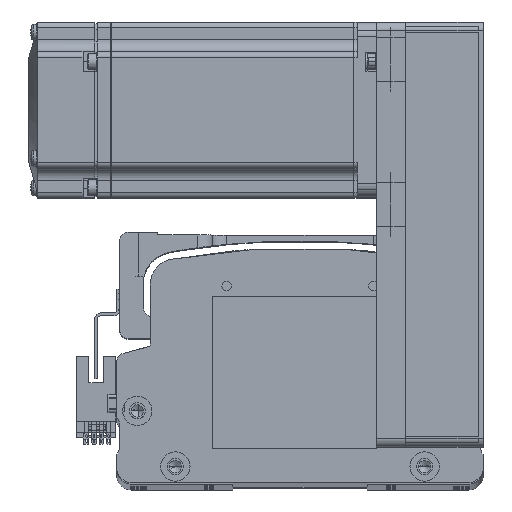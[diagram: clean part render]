
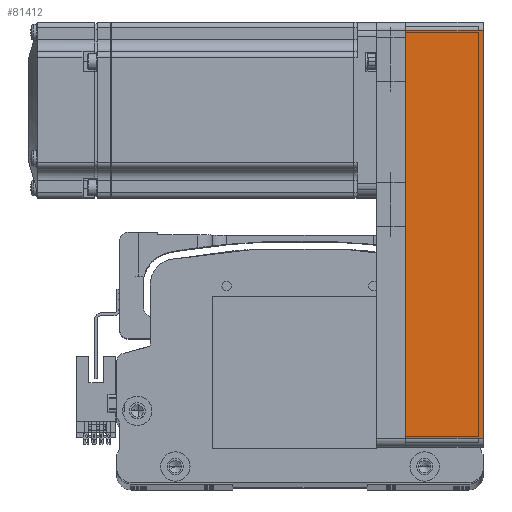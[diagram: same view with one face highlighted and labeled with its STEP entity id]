
A CAD part, top view. The second image highlights one B-rep face of the part: STEP entity #81412.
In plain terms, the highlighted planar face has unit normal (0, 0, 1) as drawn and (0, 1, 0) by its records, which use the part's own axes.
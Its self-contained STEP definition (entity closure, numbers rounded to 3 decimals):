
#199 = VERTEX_POINT ( 'NONE', #31712 ) ;
#4864 = CARTESIAN_POINT ( 'NONE',  ( 69.5, 30., 26.5 ) ) ;
#6150 = CARTESIAN_POINT ( 'NONE',  ( 72.5, 30., 26.5 ) ) ;
#6156 = VECTOR ( 'NONE', #12427, 1000. ) ;
#6783 = ORIENTED_EDGE ( 'NONE', *, *, #7560, .T. ) ;
#7560 = EDGE_CURVE ( 'NONE', #199, #18741, #8234, .T. ) ;
#8234 = LINE ( 'NONE', #51675, #6156 ) ;
#8261 = VERTEX_POINT ( 'NONE', #65864 ) ;
#11476 = DIRECTION ( 'NONE',  ( 0., 0., 1. ) ) ;
#12232 = CARTESIAN_POINT ( 'NONE',  ( -69.5, 30., 26.5 ) ) ;
#12427 = DIRECTION ( 'NONE',  ( -1., 0., 0. ) ) ;
#12798 = DIRECTION ( 'NONE',  ( 1., 0., 0. ) ) ;
#14699 = DIRECTION ( 'NONE',  ( -1., 0., 0. ) ) ;
#14882 = ORIENTED_EDGE ( 'NONE', *, *, #74785, .F. ) ;
#15406 = ORIENTED_EDGE ( 'NONE', *, *, #56958, .T. ) ;
#18741 = VERTEX_POINT ( 'NONE', #43311 ) ;
#22747 = LINE ( 'NONE', #25812, #77156 ) ;
#23011 = EDGE_LOOP ( 'NONE', ( #6783, #15406, #14882, #35166 ) ) ;
#25812 = CARTESIAN_POINT ( 'NONE',  ( -69.5, 30., 26.5 ) ) ;
#27476 = VECTOR ( 'NONE', #50751, 1000. ) ;
#31712 = CARTESIAN_POINT ( 'NONE',  ( 69.5, 30., 0. ) ) ;
#32937 = LINE ( 'NONE', #47371, #81126 ) ;
#35166 = ORIENTED_EDGE ( 'NONE', *, *, #83820, .T. ) ;
#35373 = AXIS2_PLACEMENT_3D ( 'NONE', #6150, #52036, #12798 ) ;
#43311 = CARTESIAN_POINT ( 'NONE',  ( -69.5, 30., 0. ) ) ;
#45367 = FACE_OUTER_BOUND ( 'NONE', #23011, .T. ) ;
#47371 = CARTESIAN_POINT ( 'NONE',  ( 72.5, 30., 26.5 ) ) ;
#50751 = DIRECTION ( 'NONE',  ( 0., 0., -1. ) ) ;
#51675 = CARTESIAN_POINT ( 'NONE',  ( 72.5, 30., 0. ) ) ;
#52036 = DIRECTION ( 'NONE',  ( 0., -1., 0. ) ) ;
#56958 = EDGE_CURVE ( 'NONE', #18741, #78993, #22747, .T. ) ;
#64925 = PLANE ( 'NONE',  #35373 ) ;
#65864 = CARTESIAN_POINT ( 'NONE',  ( 69.5, 30., 26.5 ) ) ;
#74785 = EDGE_CURVE ( 'NONE', #8261, #78993, #32937, .T. ) ;
#77156 = VECTOR ( 'NONE', #11476, 1000. ) ;
#77744 = LINE ( 'NONE', #4864, #27476 ) ;
#78993 = VERTEX_POINT ( 'NONE', #12232 ) ;
#81126 = VECTOR ( 'NONE', #14699, 1000. ) ;
#81412 = ADVANCED_FACE ( 'NONE', ( #45367 ), #64925, .F. ) ;
#83820 = EDGE_CURVE ( 'NONE', #8261, #199, #77744, .T. ) ;
